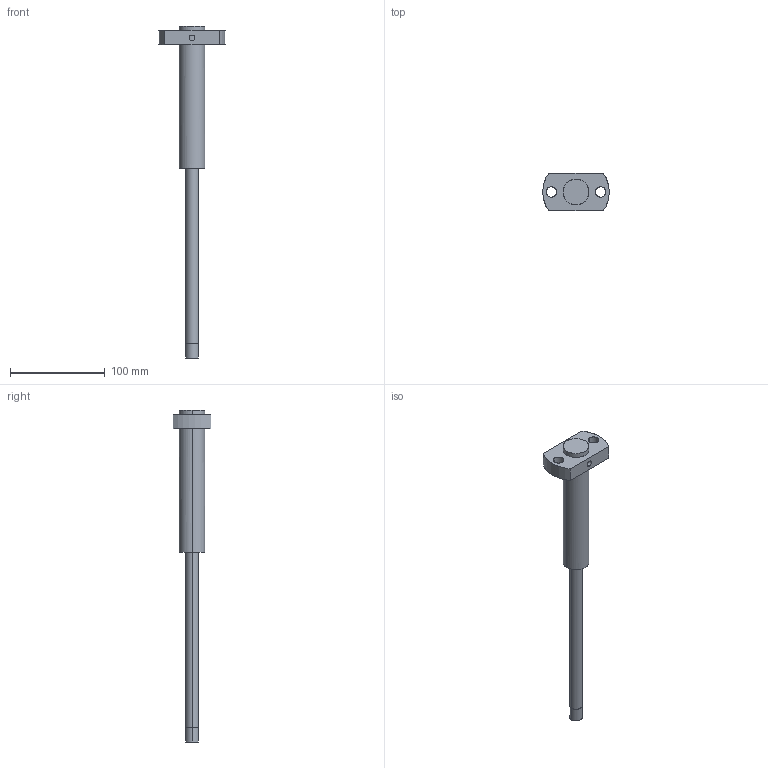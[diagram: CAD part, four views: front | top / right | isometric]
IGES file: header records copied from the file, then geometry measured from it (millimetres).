
Global section: file name: E:\UnigraphicsGraphicData\MISUMI_PRESS-PARTS\IGES\3d_papzu13-200-150-130-250_01712_r00.igs; native system: NX V5.0; preprocessor: UGS NX IGES V5.0; author: MISUMI; date: 20110105.162228; units: millimetre
Bounding box: 70 x 40 x 350 mm (x, y, z)
Surface area: 32500.1 mm2 (no closed solid volume)
Topology: 0 solids, 0 shells, 32 faces, 284 edges, 284 vertices
Faces by surface type: bspline 32
